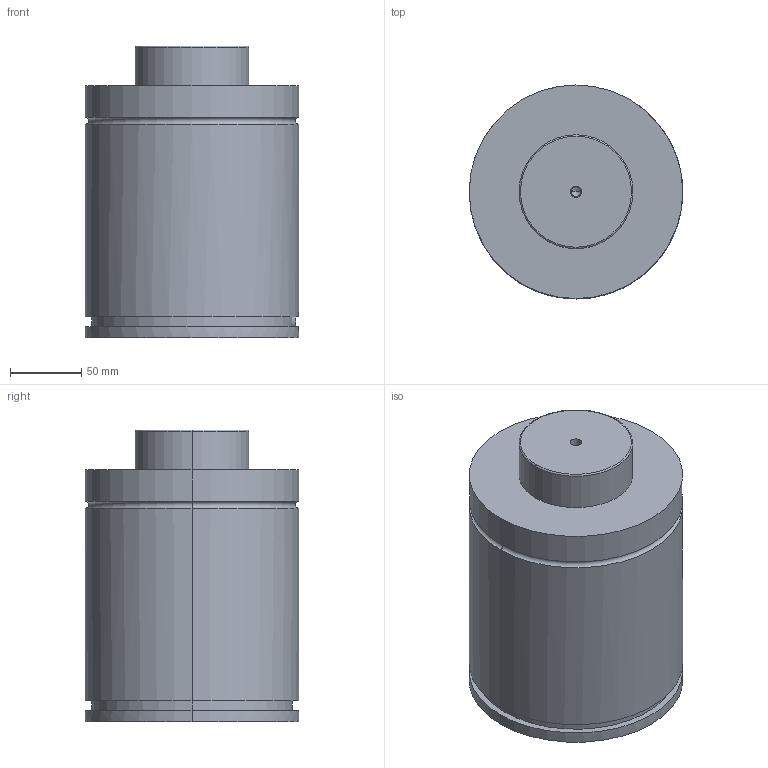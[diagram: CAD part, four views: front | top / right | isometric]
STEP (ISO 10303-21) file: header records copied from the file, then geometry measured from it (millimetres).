
FILE_DESCRIPTION(/* description */ (''),/* implementation_level */ '2;1');
FILE_NAME(/* name */ '3d_gse150-25_03872_r00.stp',/* time_stamp */ '2011-01-10T14:15:20+09:00',/* author */ ('MISUMI'),/* organization */ (''),/* preprocessor_version */ 'ST-DEVELOPER v11',/* originating_system */ 'UGS - NX 5.0',/* authorisation */ '');
FILE_SCHEMA (('CONFIG_CONTROL_DESIGN'));
Length unit declared in the file: millimetre
Products named in the file (1): 3d_gse150-25_03872_r00
Bounding box: 150 x 150 x 205 mm (x, y, z)
Volume: 3242038.8 mm3; surface area: 134133 mm2
Topology: 1 solids, 1 shells, 75 faces, 161 edges, 103 vertices
Faces by surface type: cylinder 34, plane 27, cone 10, torus 4
Entity records: 2145 total; most frequent: DIRECTION 393, CARTESIAN_POINT 360, ORIENTED_EDGE 318, AXIS2_PLACEMENT_3D 164, EDGE_CURVE 159, VERTEX_POINT 103, EDGE_LOOP 92, CIRCLE 88
